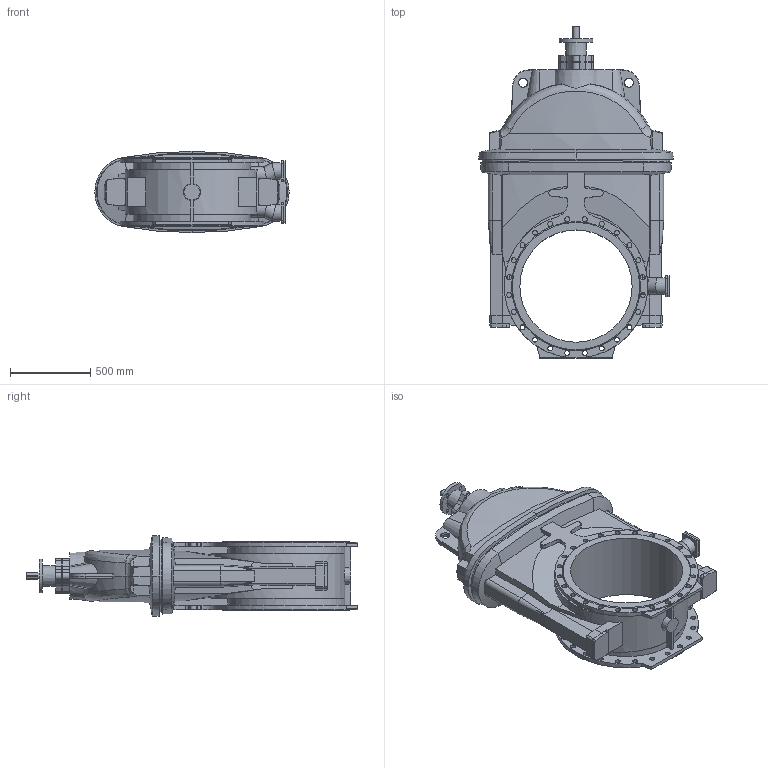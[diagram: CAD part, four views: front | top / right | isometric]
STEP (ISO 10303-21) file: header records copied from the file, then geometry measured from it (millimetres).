
FILE_DESCRIPTION (( 'STEP AP203' ), '1' );
FILE_NAME ('O_06_30_DN700_X0XXX_AA0.step', '2018-11-21T07:20:22', ( 'Windows User' ), ( 'AVK' ), 'SwSTEP 2.0', 'SolidWorks 2012', '' );
FILE_SCHEMA (( 'CONFIG_CONTROL_DESIGN' ));
Length unit declared in the file: inch
Products named in the file (1): O_06_30_DN700_X0XXX_AA0
Bounding box: 1212 x 2069.5 x 506 mm (x, y, z)
Volume: 357467594.2 mm3; surface area: 7013817.3 mm2
Topology: 1 solids, 1 shells, 538 faces, 1499 edges, 973 vertices
Faces by surface type: plane 255, cylinder 194, cone 67, bspline 22
Full cylindrical faces by diameter (mm): 22 x4, 31 x48, 40 x1, 104 x4, 210 x1, 700 x1
Entity records: 20184 total; most frequent: CARTESIAN_POINT 7039, ORIENTED_EDGE 2760, DIRECTION 2555, EDGE_CURVE 1380, AXIS2_PLACEMENT_3D 932, VERTEX_POINT 920, EDGE_LOOP 724, LINE 691
